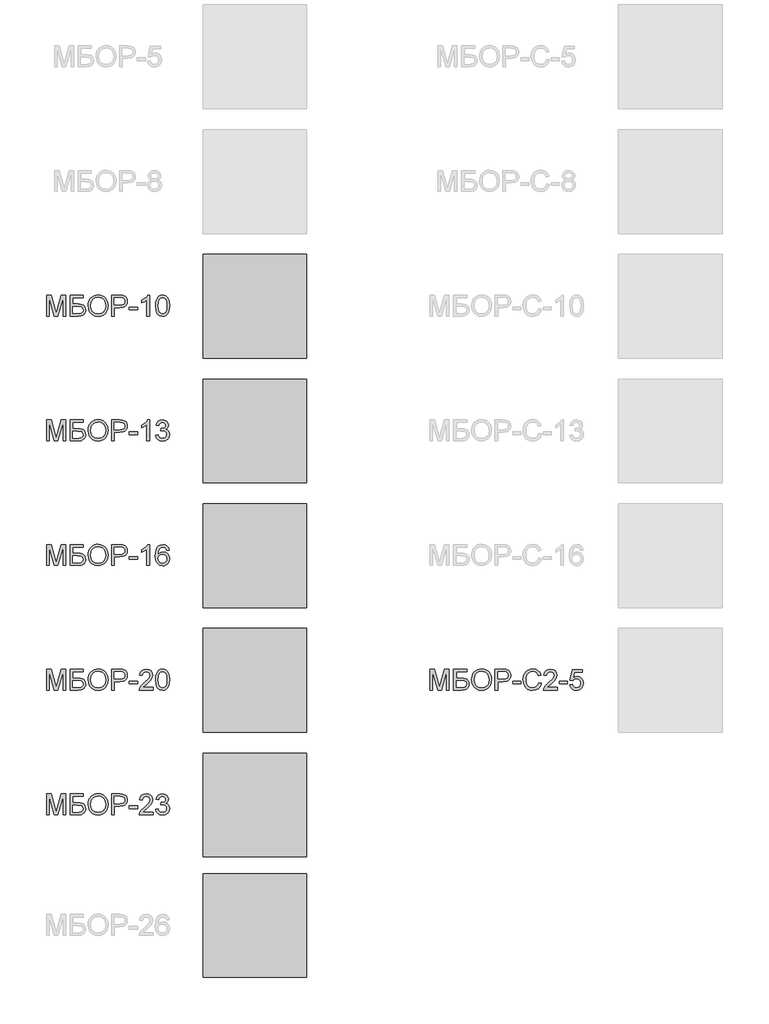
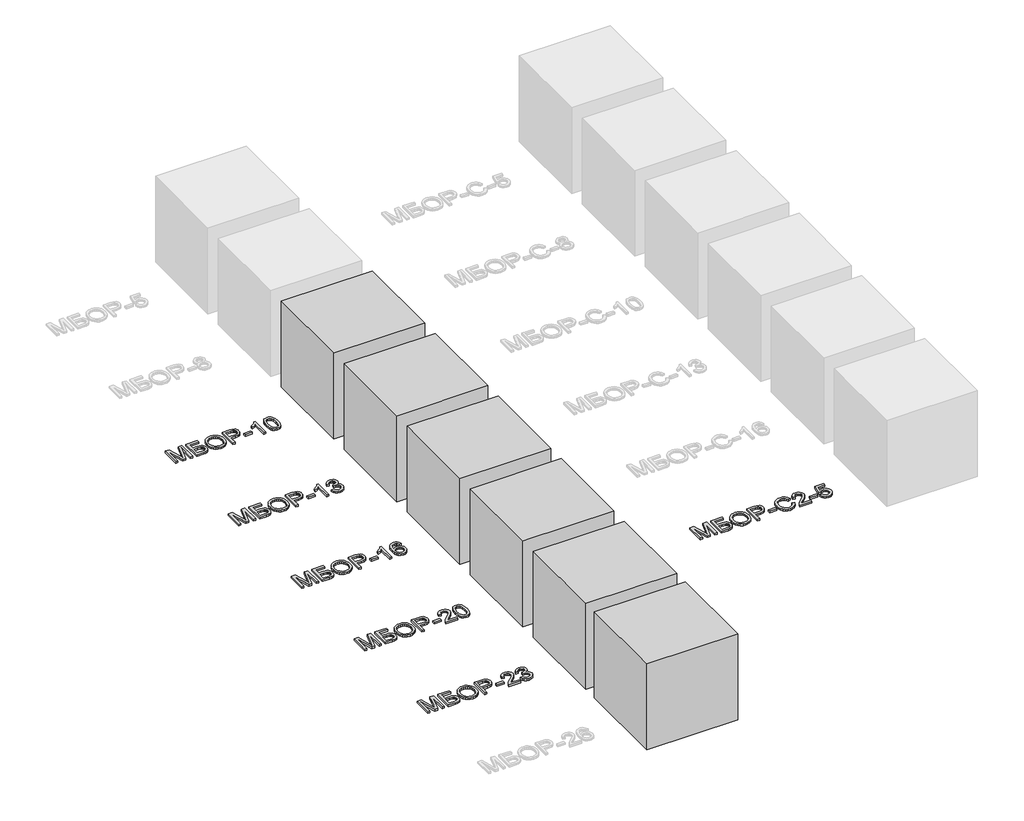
# One storey, part 22 of 35: 12 proxies.
"""IFC4 building model written with IfcOpenShell, lengths in millimetres."""

from ifc_helpers import new_model, si_unit, origin, origin_with_axes, place, context, project, spatial, polyline, outline, extrude, transform, mapped, element, save
from components import generic_models_0168a45e

model = new_model("IFC4")

# Units and contexts
model_context = context("Model", 3, world=origin())
ifc_project = project(units=[si_unit("LENGTHUNIT", "METRE", prefix="MILLI")], contexts=[model_context])

# Site, building, storey
site = spatial("IfcSite", under=ifc_project)
building = spatial("IfcBuilding", under=site)
storey = spatial("IfcBuildingStorey", under=building, Name="Этаж 01", Elevation=0.0)

# Proxies
placement = place(None, origin())
element("IfcBuildingElementProxy", 1, Name="400 мм Arial", ObjectType="400 мм Arial", at=placement, inside=storey, context=model_context, shape_type="SweptSolid", body=[
    extrude(outline(polyline([(8145.0571382, -24610.2364996), (8145.0571382, -24409.3238793), (8188.2710099, -24409.3238793), (8229.3756915, -24550.933922), (8237.6652992, -24580.5116344), (8246.6416198, -24548.4813754), (8287.0595884, -24409.3238793), (8330.2734601, -24409.3238793), (8330.2734601, -24610.2364996), (8305.1593825, -24610.2364996), (8305.1593825, -24434.4379569), (8254.6859728, -24610.2364996), (8220.6446255, -24610.2364996), (8170.1712158, -24434.4379569), (8170.1712158, -24610.2364996), (8145.0571382, -24610.2364996)])), origin_with_axes(), (0.0, 0.0, 1.0), 20.0),
    extrude(outline(polyline([(8374.2230958, -24409.3238793), (8499.7934835, -24409.3238793), (8499.7934835, -24434.4379569), (8399.3371733, -24434.4379569), (8399.3371733, -24494.083891), (8446.3770178, -24494.083891), (8469.7620499, -24495.3592153), (8487.8250559, -24499.185188), (8501.6942071, -24506.5550907), (8512.497675, -24518.4622046), (8519.4506447, -24533.790621), (8521.7683013, -24551.4244313), (8520.1189637, -24566.2316816), (8515.1709509, -24580.0456506), (8506.9487883, -24592.1428368), (8495.4770014, -24601.7997392), (8477.7818774, -24608.1273095), (8450.8897036, -24610.2364996), (8374.2230958, -24610.2364996), (8374.2230958, -24409.3238793)]), holes=[polyline([(8399.3371733, -24585.1224221), (8453.1460465, -24585.1224221), (8472.1655456, -24583.0500202), (8485.7649167, -24576.8328145), (8493.931897, -24566.4708049), (8496.6542238, -24551.9639916), (8495.0968567, -24541.1605237), (8490.4247553, -24532.2945676), (8482.9751449, -24525.7217426), (8473.0852506, -24521.797668), (8435.242456, -24519.1979686), (8399.3371733, -24519.1979686), (8399.3371733, -24585.1224221)])]), origin_with_axes(), (0.0, 0.0, 1.0), 20.0),
    extrude(outline(polyline([(8546.8823788, -24512.4289398), (8548.5562419, -24488.8630324), (8553.5778312, -24468.0010576), (8561.9471465, -24449.8430154), (8573.6641881, -24434.3889059), (8588.0269143, -24422.0495307), (8604.3332838, -24413.2356912), (8622.5832964, -24407.9473875), (8642.7769522, -24406.1846196), (8669.1295658, -24409.4955576), (8692.7598527, -24419.4283715), (8712.3802257, -24435.2840855), (8726.7030981, -24456.3637238), (8735.4586896, -24481.6494796), (8738.3772201, -24510.123546), (8735.3054054, -24538.9777572), (8726.0899614, -24564.6191322), (8711.2397915, -24585.7355588), (8691.2637992, -24601.0149243), (8667.8358475, -24610.2855506), (8642.6297994, -24613.3757593), (8615.8725157, -24609.9605881), (8592.1073388, -24599.7150746), (8572.5360166, -24583.565055), (8558.3602971, -24562.4363657), (8549.7518584, -24538.1254972), (8546.8823788, -24512.4289398)]), holes=[polyline([(8571.9964564, -24512.6741945), (8577.0180456, -24544.1035796), (8592.0828133, -24568.0526975), (8614.7259501, -24583.2094357), (8642.4826467, -24588.2616818), (8670.6440134, -24583.1603848), (8693.3239384, -24567.8564938), (8702.0473402, -24556.5839763), (8708.2783415, -24543.1716119), (8713.2631425, -24509.9273423), (8711.129427, -24487.695007), (8704.7282802, -24468.4793042), (8694.2252493, -24452.7646116), (8679.785881, -24441.0353073), (8662.3666685, -24433.7328497), (8642.924105, -24431.2986972), (8615.9093039, -24435.9891926), (8592.9412046, -24450.0606789), (8583.7778773, -24461.0097668), (8577.2326434, -24475.0950487), (8571.9964564, -24512.6741945)])]), origin_with_axes(), (0.0, 0.0, 1.0), 20.0),
    extrude(outline(polyline([(8772.9090767, -24610.2364996), (8772.9090767, -24409.3238793), (8847.3683925, -24409.3238793), (8877.3875633, -24411.2368657), (8901.7904023, -24420.6301193), (8910.6624898, -24428.9565151), (8917.6093281, -24440.0542887), (8922.0974885, -24453.1447563), (8923.5935419, -24467.4492346), (8919.5529713, -24491.1285723), (8907.4312596, -24510.85931), (8897.7237734, -24518.6277515), (8884.7635973, -24524.1766382), (8849.0851751, -24528.6157476), (8798.0231542, -24528.6157476), (8798.0231542, -24610.2364996), (8772.9090767, -24610.2364996)]), holes=[polyline([(8798.0231542, -24503.5016701), (8850.5567031, -24503.5016701), (8872.8258266, -24501.1962763), (8887.5411064, -24494.2800948), (8895.7448749, -24483.1823212), (8898.4794644, -24468.3321514), (8896.8669149, -24457.0504368), (8892.0292667, -24447.5345559), (8884.5673936, -24440.3731197), (8875.0821695, -24436.1547395), (8849.9680919, -24434.4379569), (8798.0231542, -24434.4379569), (8798.0231542, -24503.5016701)])]), origin_with_axes(), (0.0, 0.0, 1.0), 20.0),
    extrude(outline(polyline([(8942.4291001, -24550.5905655), (8942.4291001, -24525.4764879), (9020.9105924, -24525.4764879), (9020.9105924, -24550.5905655), (8942.4291001, -24550.5905655)])), origin_with_axes(), (0.0, 0.0, 1.0), 20.0),
    extrude(outline(polyline([(9137.063201, -24610.2364996), (9111.9491234, -24610.2364996), (9111.9491234, -24453.6659225), (9088.1594211, -24470.6130197), (9061.7209684, -24483.2926858), (9061.7209684, -24459.5520344), (9098.5336933, -24436.0566377), (9112.0043057, -24422.481792), (9120.8763932, -24409.3238793), (9137.063201, -24409.3238793), (9137.063201, -24610.2364996)])), origin_with_axes(), (0.0, 0.0, 1.0), 20.0),
    extrude(outline(polyline([(9196.7091351, -24511.3988703), (9198.5546765, -24479.2398525), (9204.0913005, -24453.5923461), (9213.2638249, -24434.0639435), (9226.0170674, -24420.2622373), (9242.4429985, -24412.0584688), (9262.6335887, -24409.3238793), (9278.1091579, -24410.9425601), (9291.9660464, -24415.7986025), (9303.5543293, -24423.701934), (9312.2240816, -24434.4624823), (9323.9963054, -24464.1873475), (9328.5580422, -24511.3988703), (9326.7308949, -24543.373947), (9321.2494532, -24568.9601398), (9312.1321111, -24588.5069365), (9299.3972627, -24602.3638249), (9282.9345434, -24610.6227757), (9262.6335887, -24613.3757593), (9236.5384925, -24608.5932934), (9216.7219157, -24594.2458956), (9207.9663242, -24579.1167485), (9201.7123303, -24560.265862), (9196.7091351, -24511.3988703)]), holes=[polyline([(9221.8232127, -24511.3498193), (9224.7662686, -24550.8542142), (9233.5954365, -24573.7180802), (9246.7410865, -24584.6257814), (9262.6335887, -24588.2616818), (9278.5260908, -24584.6135187), (9291.6717408, -24573.6690293), (9300.5009087, -24550.7929006), (9303.4439647, -24511.3498193), (9300.5990106, -24472.7344726), (9292.0641483, -24449.6927969), (9278.9430238, -24438.2516669), (9262.3392831, -24434.4379569), (9246.6184591, -24437.7979458), (9233.987844, -24447.8779124), (9224.8643705, -24472.3543278), (9221.8232127, -24511.3498193)])]), origin_with_axes(), (0.0, 0.0, 1.0), 20.0),
])
element("IfcBuildingElementProxy", 2, Name="400 мм Arial", ObjectType="400 мм Arial", at=placement, inside=storey, context=model_context, shape_type="SweptSolid", body=[
    extrude(outline(polyline([(8145.0571382, -25810.2364996), (8145.0571382, -25609.3238793), (8188.2710099, -25609.3238793), (8229.3756915, -25750.933922), (8237.6652992, -25780.5116344), (8246.6416198, -25748.4813754), (8287.0595884, -25609.3238793), (8330.2734601, -25609.3238793), (8330.2734601, -25810.2364996), (8305.1593825, -25810.2364996), (8305.1593825, -25634.4379569), (8254.6859728, -25810.2364996), (8220.6446255, -25810.2364996), (8170.1712158, -25634.4379569), (8170.1712158, -25810.2364996), (8145.0571382, -25810.2364996)])), origin_with_axes(), (0.0, 0.0, 1.0), 20.0),
    extrude(outline(polyline([(8374.2230958, -25609.3238793), (8499.7934835, -25609.3238793), (8499.7934835, -25634.4379569), (8399.3371733, -25634.4379569), (8399.3371733, -25694.083891), (8446.3770178, -25694.083891), (8469.7620499, -25695.3592153), (8487.8250559, -25699.185188), (8501.6942071, -25706.5550907), (8512.497675, -25718.4622046), (8519.4506447, -25733.790621), (8521.7683013, -25751.4244313), (8520.1189637, -25766.2316816), (8515.1709509, -25780.0456506), (8506.9487883, -25792.1428368), (8495.4770014, -25801.7997392), (8477.7818774, -25808.1273095), (8450.8897036, -25810.2364996), (8374.2230958, -25810.2364996), (8374.2230958, -25609.3238793)]), holes=[polyline([(8399.3371733, -25785.1224221), (8453.1460465, -25785.1224221), (8472.1655456, -25783.0500202), (8485.7649167, -25776.8328145), (8493.931897, -25766.4708049), (8496.6542238, -25751.9639916), (8495.0968567, -25741.1605237), (8490.4247553, -25732.2945676), (8482.9751449, -25725.7217426), (8473.0852506, -25721.797668), (8435.242456, -25719.1979686), (8399.3371733, -25719.1979686), (8399.3371733, -25785.1224221)])]), origin_with_axes(), (0.0, 0.0, 1.0), 20.0),
    extrude(outline(polyline([(8546.8823788, -25712.4289398), (8548.5562419, -25688.8630324), (8553.5778312, -25668.0010576), (8561.9471465, -25649.8430154), (8573.6641881, -25634.3889059), (8588.0269143, -25622.0495307), (8604.3332838, -25613.2356912), (8622.5832964, -25607.9473875), (8642.7769522, -25606.1846196), (8669.1295658, -25609.4955576), (8692.7598527, -25619.4283715), (8712.3802257, -25635.2840855), (8726.7030981, -25656.3637238), (8735.4586896, -25681.6494796), (8738.3772201, -25710.123546), (8735.3054054, -25738.9777572), (8726.0899614, -25764.6191322), (8711.2397915, -25785.7355588), (8691.2637992, -25801.0149243), (8667.8358475, -25810.2855506), (8642.6297994, -25813.3757593), (8615.8725157, -25809.9605881), (8592.1073388, -25799.7150746), (8572.5360166, -25783.565055), (8558.3602971, -25762.4363657), (8549.7518584, -25738.1254972), (8546.8823788, -25712.4289398)]), holes=[polyline([(8571.9964564, -25712.6741945), (8577.0180456, -25744.1035796), (8592.0828133, -25768.0526975), (8614.7259501, -25783.2094357), (8642.4826467, -25788.2616818), (8670.6440134, -25783.1603848), (8693.3239384, -25767.8564938), (8702.0473402, -25756.5839763), (8708.2783415, -25743.1716119), (8713.2631425, -25709.9273423), (8711.129427, -25687.695007), (8704.7282802, -25668.4793042), (8694.2252493, -25652.7646116), (8679.785881, -25641.0353073), (8662.3666685, -25633.7328497), (8642.924105, -25631.2986972), (8615.9093039, -25635.9891926), (8592.9412046, -25650.0606789), (8583.7778773, -25661.0097668), (8577.2326434, -25675.0950487), (8571.9964564, -25712.6741945)])]), origin_with_axes(), (0.0, 0.0, 1.0), 20.0),
    extrude(outline(polyline([(8772.9090767, -25810.2364996), (8772.9090767, -25609.3238793), (8847.3683925, -25609.3238793), (8877.3875633, -25611.2368657), (8901.7904023, -25620.6301193), (8910.6624898, -25628.9565151), (8917.6093281, -25640.0542887), (8922.0974885, -25653.1447563), (8923.5935419, -25667.4492346), (8919.5529713, -25691.1285723), (8907.4312596, -25710.85931), (8897.7237734, -25718.6277515), (8884.7635973, -25724.1766382), (8849.0851751, -25728.6157476), (8798.0231542, -25728.6157476), (8798.0231542, -25810.2364996), (8772.9090767, -25810.2364996)]), holes=[polyline([(8798.0231542, -25703.5016701), (8850.5567031, -25703.5016701), (8872.8258266, -25701.1962763), (8887.5411064, -25694.2800948), (8895.7448749, -25683.1823212), (8898.4794644, -25668.3321514), (8896.8669149, -25657.0504368), (8892.0292667, -25647.5345559), (8884.5673936, -25640.3731197), (8875.0821695, -25636.1547395), (8849.9680919, -25634.4379569), (8798.0231542, -25634.4379569), (8798.0231542, -25703.5016701)])]), origin_with_axes(), (0.0, 0.0, 1.0), 20.0),
    extrude(outline(polyline([(8942.4291001, -25750.5905655), (8942.4291001, -25725.4764879), (9020.9105924, -25725.4764879), (9020.9105924, -25750.5905655), (8942.4291001, -25750.5905655)])), origin_with_axes(), (0.0, 0.0, 1.0), 20.0),
    extrude(outline(polyline([(9137.063201, -25810.2364996), (9111.9491234, -25810.2364996), (9111.9491234, -25653.6659225), (9088.1594211, -25670.6130197), (9061.7209684, -25683.2926858), (9061.7209684, -25659.5520344), (9098.5336933, -25636.0566377), (9112.0043057, -25622.481792), (9120.8763932, -25609.3238793), (9137.063201, -25609.3238793), (9137.063201, -25810.2364996)])), origin_with_axes(), (0.0, 0.0, 1.0), 20.0),
    extrude(outline(polyline([(9196.7091351, -25756.8690849), (9221.8232127, -25753.7298252), (9227.4456758, -25769.5119628), (9235.6801011, -25780.1682779), (9246.9311588, -25786.2383308), (9261.6035191, -25788.2616818), (9278.8203964, -25785.4780414), (9292.1131992, -25777.1271201), (9300.6112733, -25764.6681832), (9303.4439647, -25749.5604959), (9300.6357988, -25735.2192295), (9292.2113011, -25723.588027), (9279.4580586, -25715.8808992), (9263.6636582, -25713.3118566), (9246.0543734, -25716.0587089), (9248.8502766, -25690.9446313), (9252.872453, -25691.2389369), (9267.9188267, -25689.4363152), (9281.3710449, -25684.0284498), (9290.8624004, -25674.8804509), (9294.0261856, -25661.8574282), (9291.7330545, -25651.0110408), (9284.8536612, -25642.2125297), (9274.3567616, -25636.3816001), (9261.2111116, -25634.4379569), (9248.0409362, -25636.3999942), (9237.2742565, -25642.2861061), (9229.4138445, -25652.0962926), (9224.9624723, -25665.8305538), (9199.8483948, -25662.6912941), (9207.2428229, -25640.1401278), (9220.4007356, -25623.3033952), (9238.4024279, -25612.8187583), (9260.3281948, -25609.3238793), (9276.1164638, -25611.0467933), (9290.6171458, -25616.2155354), (9302.8430907, -25624.3702529), (9311.8071487, -25635.0510935), (9317.3069845, -25647.3567463), (9319.1402631, -25660.3859003), (9317.398955, -25672.5260061), (9312.1750307, -25683.5379405), (9303.5420665, -25692.9189314), (9291.5736389, -25700.1662067), (9307.2944629, -25706.5183025), (9318.9440594, -25717.3340331), (9326.1545465, -25732.0247875), (9328.5580422, -25750.0019543), (9323.7510508, -25774.4783697), (9309.3300766, -25794.9326086), (9287.5637252, -25808.7649717), (9260.7206023, -25813.3757593), (9236.4403906, -25809.439422), (9216.6728647, -25797.6304099), (9202.9263408, -25779.567404), (9196.7091351, -25756.8690849)])), origin_with_axes(), (0.0, 0.0, 1.0), 20.0),
])
element("IfcBuildingElementProxy", 3, Name="400 мм Arial", ObjectType="400 мм Arial", at=placement, inside=storey, context=model_context, shape_type="SweptSolid", body=[
    extrude(outline(polyline([(8145.0571382, -27010.2364996), (8145.0571382, -26809.3238793), (8188.2710099, -26809.3238793), (8229.3756915, -26950.933922), (8237.6652992, -26980.5116344), (8246.6416198, -26948.4813754), (8287.0595884, -26809.3238793), (8330.2734601, -26809.3238793), (8330.2734601, -27010.2364996), (8305.1593825, -27010.2364996), (8305.1593825, -26834.4379569), (8254.6859728, -27010.2364996), (8220.6446255, -27010.2364996), (8170.1712158, -26834.4379569), (8170.1712158, -27010.2364996), (8145.0571382, -27010.2364996)])), origin_with_axes(), (0.0, 0.0, 1.0), 20.0),
    extrude(outline(polyline([(8374.2230958, -26809.3238793), (8499.7934835, -26809.3238793), (8499.7934835, -26834.4379569), (8399.3371733, -26834.4379569), (8399.3371733, -26894.083891), (8446.3770178, -26894.083891), (8469.7620499, -26895.3592153), (8487.8250559, -26899.185188), (8501.6942071, -26906.5550907), (8512.497675, -26918.4622046), (8519.4506447, -26933.790621), (8521.7683013, -26951.4244313), (8520.1189637, -26966.2316816), (8515.1709509, -26980.0456506), (8506.9487883, -26992.1428368), (8495.4770014, -27001.7997392), (8477.7818774, -27008.1273095), (8450.8897036, -27010.2364996), (8374.2230958, -27010.2364996), (8374.2230958, -26809.3238793)]), holes=[polyline([(8399.3371733, -26985.1224221), (8453.1460465, -26985.1224221), (8472.1655456, -26983.0500202), (8485.7649167, -26976.8328145), (8493.931897, -26966.4708049), (8496.6542238, -26951.9639916), (8495.0968567, -26941.1605237), (8490.4247553, -26932.2945676), (8482.9751449, -26925.7217426), (8473.0852506, -26921.797668), (8435.242456, -26919.1979686), (8399.3371733, -26919.1979686), (8399.3371733, -26985.1224221)])]), origin_with_axes(), (0.0, 0.0, 1.0), 20.0),
    extrude(outline(polyline([(8546.8823788, -26912.4289398), (8548.5562419, -26888.8630324), (8553.5778312, -26868.0010576), (8561.9471465, -26849.8430154), (8573.6641881, -26834.3889059), (8588.0269143, -26822.0495307), (8604.3332838, -26813.2356912), (8622.5832964, -26807.9473875), (8642.7769522, -26806.1846196), (8669.1295658, -26809.4955576), (8692.7598527, -26819.4283715), (8712.3802257, -26835.2840855), (8726.7030981, -26856.3637238), (8735.4586896, -26881.6494796), (8738.3772201, -26910.123546), (8735.3054054, -26938.9777572), (8726.0899614, -26964.6191322), (8711.2397915, -26985.7355588), (8691.2637992, -27001.0149243), (8667.8358475, -27010.2855506), (8642.6297994, -27013.3757593), (8615.8725157, -27009.9605881), (8592.1073388, -26999.7150746), (8572.5360166, -26983.565055), (8558.3602971, -26962.4363657), (8549.7518584, -26938.1254972), (8546.8823788, -26912.4289398)]), holes=[polyline([(8571.9964564, -26912.6741945), (8577.0180456, -26944.1035796), (8592.0828133, -26968.0526975), (8614.7259501, -26983.2094357), (8642.4826467, -26988.2616818), (8670.6440134, -26983.1603848), (8693.3239384, -26967.8564938), (8702.0473402, -26956.5839763), (8708.2783415, -26943.1716119), (8713.2631425, -26909.9273423), (8711.129427, -26887.695007), (8704.7282802, -26868.4793042), (8694.2252493, -26852.7646116), (8679.785881, -26841.0353073), (8662.3666685, -26833.7328497), (8642.924105, -26831.2986972), (8615.9093039, -26835.9891926), (8592.9412046, -26850.0606789), (8583.7778773, -26861.0097668), (8577.2326434, -26875.0950487), (8571.9964564, -26912.6741945)])]), origin_with_axes(), (0.0, 0.0, 1.0), 20.0),
    extrude(outline(polyline([(8772.9090767, -27010.2364996), (8772.9090767, -26809.3238793), (8847.3683925, -26809.3238793), (8877.3875633, -26811.2368657), (8901.7904023, -26820.6301193), (8910.6624898, -26828.9565151), (8917.6093281, -26840.0542887), (8922.0974885, -26853.1447563), (8923.5935419, -26867.4492346), (8919.5529713, -26891.1285723), (8907.4312596, -26910.85931), (8897.7237734, -26918.6277515), (8884.7635973, -26924.1766382), (8849.0851751, -26928.6157476), (8798.0231542, -26928.6157476), (8798.0231542, -27010.2364996), (8772.9090767, -27010.2364996)]), holes=[polyline([(8798.0231542, -26903.5016701), (8850.5567031, -26903.5016701), (8872.8258266, -26901.1962763), (8887.5411064, -26894.2800948), (8895.7448749, -26883.1823212), (8898.4794644, -26868.3321514), (8896.8669149, -26857.0504368), (8892.0292667, -26847.5345559), (8884.5673936, -26840.3731197), (8875.0821695, -26836.1547395), (8849.9680919, -26834.4379569), (8798.0231542, -26834.4379569), (8798.0231542, -26903.5016701)])]), origin_with_axes(), (0.0, 0.0, 1.0), 20.0),
    extrude(outline(polyline([(8942.4291001, -26950.5905655), (8942.4291001, -26925.4764879), (9020.9105924, -26925.4764879), (9020.9105924, -26950.5905655), (8942.4291001, -26950.5905655)])), origin_with_axes(), (0.0, 0.0, 1.0), 20.0),
    extrude(outline(polyline([(9137.063201, -27010.2364996), (9111.9491234, -27010.2364996), (9111.9491234, -26853.6659225), (9088.1594211, -26870.6130197), (9061.7209684, -26883.2926858), (9061.7209684, -26859.5520344), (9098.5336933, -26836.0566377), (9112.0043057, -26822.481792), (9120.8763932, -26809.3238793), (9137.063201, -26809.3238793), (9137.063201, -27010.2364996)])), origin_with_axes(), (0.0, 0.0, 1.0), 20.0),
    extrude(outline(polyline([(9325.4187825, -26862.6912941), (9300.304705, -26865.8305538), (9290.788824, -26844.8858055), (9279.3967449, -26837.049919), (9265.6256955, -26834.4379569), (9242.9641646, -26840.5202725), (9233.5279915, -26850.128124), (9225.8208637, -26863.3534817), (9220.6153334, -26882.0602811), (9218.683953, -26908.1124578), (9228.7577883, -26896.358628), (9240.8304491, -26888.0751518), (9254.2274851, -26883.1639271), (9268.2744459, -26881.5268523), (9291.4755371, -26886.0027499), (9310.9487574, -26899.4304427), (9324.155721, -26919.9459953), (9328.5580422, -26945.6854722), (9326.4856403, -26963.6687704), (9320.2684346, -26980.3399562), (9310.4214598, -26994.4788875), (9297.4597509, -27004.8654225), (9281.9719189, -27011.2481751), (9264.546575, -27013.3757593), (9236.0541145, -27007.7349021), (9213.3619268, -26990.8123303), (9204.7029043, -26977.7034685), (9198.5178883, -26960.9403123), (9193.5698754, -26916.4511163), (9199.0635799, -26866.4314277), (9205.9307105, -26847.3536806), (9215.5446933, -26832.2306649), (9225.9649508, -26822.2089462), (9238.0468086, -26815.0505757), (9267.1953254, -26809.3238793), (9289.2314569, -26812.8678092), (9306.8775299, -26823.4995989), (9319.238365, -26840.3853825), (9325.4187825, -26862.6912941)]), holes=[polyline([(9218.683953, -26945.2930648), (9224.4964885, -26967.0471534), (9239.9475323, -26982.8415537), (9262.5845377, -26988.2616818), (9279.1576216, -26985.4535159), (9292.1867756, -26977.0290182), (9300.6296674, -26963.7852664), (9303.4439647, -26946.5193381), (9300.6664556, -26929.9462542), (9292.3339284, -26917.3095077), (9279.0840452, -26909.3080743), (9261.5544681, -26906.6409298), (9245.0059097, -26909.3080743), (9231.1674153, -26917.3095077), (9221.8048186, -26929.6396859), (9218.683953, -26945.2930648)])]), origin_with_axes(), (0.0, 0.0, 1.0), 20.0),
])
element("IfcBuildingElementProxy", 4, Name="400 мм Arial", ObjectType="400 мм Arial", at=placement, inside=storey, context=model_context, shape_type="SweptSolid", body=[
    extrude(outline(polyline([(8145.0571382, -28210.2364996), (8145.0571382, -28009.3238793), (8188.2710099, -28009.3238793), (8229.3756915, -28150.933922), (8237.6652992, -28180.5116344), (8246.6416198, -28148.4813754), (8287.0595884, -28009.3238793), (8330.2734601, -28009.3238793), (8330.2734601, -28210.2364996), (8305.1593825, -28210.2364996), (8305.1593825, -28034.4379569), (8254.6859728, -28210.2364996), (8220.6446255, -28210.2364996), (8170.1712158, -28034.4379569), (8170.1712158, -28210.2364996), (8145.0571382, -28210.2364996)])), origin_with_axes(), (0.0, 0.0, 1.0), 20.0),
    extrude(outline(polyline([(8374.2230958, -28009.3238793), (8499.7934835, -28009.3238793), (8499.7934835, -28034.4379569), (8399.3371733, -28034.4379569), (8399.3371733, -28094.083891), (8446.3770178, -28094.083891), (8469.7620499, -28095.3592153), (8487.8250559, -28099.185188), (8501.6942071, -28106.5550907), (8512.497675, -28118.4622046), (8519.4506447, -28133.790621), (8521.7683013, -28151.4244313), (8520.1189637, -28166.2316816), (8515.1709509, -28180.0456506), (8506.9487883, -28192.1428368), (8495.4770014, -28201.7997392), (8477.7818774, -28208.1273095), (8450.8897036, -28210.2364996), (8374.2230958, -28210.2364996), (8374.2230958, -28009.3238793)]), holes=[polyline([(8399.3371733, -28185.1224221), (8453.1460465, -28185.1224221), (8472.1655456, -28183.0500202), (8485.7649167, -28176.8328145), (8493.931897, -28166.4708049), (8496.6542238, -28151.9639916), (8495.0968567, -28141.1605237), (8490.4247553, -28132.2945676), (8482.9751449, -28125.7217426), (8473.0852506, -28121.797668), (8435.242456, -28119.1979686), (8399.3371733, -28119.1979686), (8399.3371733, -28185.1224221)])]), origin_with_axes(), (0.0, 0.0, 1.0), 20.0),
    extrude(outline(polyline([(8546.8823788, -28112.4289398), (8548.5562419, -28088.8630324), (8553.5778312, -28068.0010576), (8561.9471465, -28049.8430154), (8573.6641881, -28034.3889059), (8588.0269143, -28022.0495307), (8604.3332838, -28013.2356912), (8622.5832964, -28007.9473875), (8642.7769522, -28006.1846196), (8669.1295658, -28009.4955576), (8692.7598527, -28019.4283715), (8712.3802257, -28035.2840855), (8726.7030981, -28056.3637238), (8735.4586896, -28081.6494796), (8738.3772201, -28110.123546), (8735.3054054, -28138.9777572), (8726.0899614, -28164.6191322), (8711.2397915, -28185.7355588), (8691.2637992, -28201.0149243), (8667.8358475, -28210.2855506), (8642.6297994, -28213.3757593), (8615.8725157, -28209.9605881), (8592.1073388, -28199.7150746), (8572.5360166, -28183.565055), (8558.3602971, -28162.4363657), (8549.7518584, -28138.1254972), (8546.8823788, -28112.4289398)]), holes=[polyline([(8571.9964564, -28112.6741945), (8577.0180456, -28144.1035796), (8592.0828133, -28168.0526975), (8614.7259501, -28183.2094357), (8642.4826467, -28188.2616818), (8670.6440134, -28183.1603848), (8693.3239384, -28167.8564938), (8702.0473402, -28156.5839763), (8708.2783415, -28143.1716119), (8713.2631425, -28109.9273423), (8711.129427, -28087.695007), (8704.7282802, -28068.4793042), (8694.2252493, -28052.7646116), (8679.785881, -28041.0353073), (8662.3666685, -28033.7328497), (8642.924105, -28031.2986972), (8615.9093039, -28035.9891926), (8592.9412046, -28050.0606789), (8583.7778773, -28061.0097668), (8577.2326434, -28075.0950487), (8571.9964564, -28112.6741945)])]), origin_with_axes(), (0.0, 0.0, 1.0), 20.0),
    extrude(outline(polyline([(8772.9090767, -28210.2364996), (8772.9090767, -28009.3238793), (8847.3683925, -28009.3238793), (8877.3875633, -28011.2368657), (8901.7904023, -28020.6301193), (8910.6624898, -28028.9565151), (8917.6093281, -28040.0542887), (8922.0974885, -28053.1447563), (8923.5935419, -28067.4492346), (8919.5529713, -28091.1285723), (8907.4312596, -28110.85931), (8897.7237734, -28118.6277515), (8884.7635973, -28124.1766382), (8849.0851751, -28128.6157476), (8798.0231542, -28128.6157476), (8798.0231542, -28210.2364996), (8772.9090767, -28210.2364996)]), holes=[polyline([(8798.0231542, -28103.5016701), (8850.5567031, -28103.5016701), (8872.8258266, -28101.1962763), (8887.5411064, -28094.2800948), (8895.7448749, -28083.1823212), (8898.4794644, -28068.3321514), (8896.8669149, -28057.0504368), (8892.0292667, -28047.5345559), (8884.5673936, -28040.3731197), (8875.0821695, -28036.1547395), (8849.9680919, -28034.4379569), (8798.0231542, -28034.4379569), (8798.0231542, -28103.5016701)])]), origin_with_axes(), (0.0, 0.0, 1.0), 20.0),
    extrude(outline(polyline([(8942.4291001, -28150.5905655), (8942.4291001, -28125.4764879), (9020.9105924, -28125.4764879), (9020.9105924, -28150.5905655), (8942.4291001, -28150.5905655)])), origin_with_axes(), (0.0, 0.0, 1.0), 20.0),
    extrude(outline(polyline([(9171.5950576, -28185.1224221), (9171.5950576, -28210.2364996), (9039.7461505, -28210.2364996), (9042.4439518, -28192.9215204), (9057.6987919, -28166.2623385), (9089.1404397, -28137.1506099), (9132.5014642, -28095.3101643), (9140.6316563, -28080.8891901), (9143.3417204, -28066.8606234), (9140.7849405, -28054.2851905), (9133.1146009, -28043.8312105), (9121.3239829, -28036.7862703), (9106.406368, -28034.4379569), (9090.7407264, -28036.731088), (9078.5699637, -28043.6104813), (9070.7156831, -28054.5365765), (9067.9994877, -28068.9698135), (9042.8854102, -28065.8305538), (9048.9738572, -28041.5380794), (9062.1379013, -28023.7939045), (9081.6908293, -28012.9413856), (9106.9459283, -28009.3238793), (9132.3849683, -28013.3460558), (9151.9011081, -28025.4125853), (9164.3171254, -28043.438803), (9168.4557979, -28065.3400445), (9163.992163, -28089.1542723), (9149.1542559, -28113.7778405), (9113.1753967, -28148.1870698), (9084.2843974, -28172.3446541), (9072.9536319, -28185.1224221), (9171.5950576, -28185.1224221)])), origin_with_axes(), (0.0, 0.0, 1.0), 20.0),
    extrude(outline(polyline([(9196.7091351, -28111.3988703), (9198.5546765, -28079.2398525), (9204.0913005, -28053.5923461), (9213.2638249, -28034.0639435), (9226.0170674, -28020.2622373), (9242.4429985, -28012.0584688), (9262.6335887, -28009.3238793), (9278.1091579, -28010.9425601), (9291.9660464, -28015.7986025), (9303.5543293, -28023.701934), (9312.2240816, -28034.4624823), (9323.9963054, -28064.1873475), (9328.5580422, -28111.3988703), (9326.7308949, -28143.373947), (9321.2494532, -28168.9601398), (9312.1321111, -28188.5069365), (9299.3972627, -28202.3638249), (9282.9345434, -28210.6227757), (9262.6335887, -28213.3757593), (9236.5384925, -28208.5932934), (9216.7219157, -28194.2458956), (9207.9663242, -28179.1167485), (9201.7123303, -28160.265862), (9196.7091351, -28111.3988703)]), holes=[polyline([(9221.8232127, -28111.3498193), (9224.7662686, -28150.8542142), (9233.5954365, -28173.7180802), (9246.7410865, -28184.6257814), (9262.6335887, -28188.2616818), (9278.5260908, -28184.6135187), (9291.6717408, -28173.6690293), (9300.5009087, -28150.7929006), (9303.4439647, -28111.3498193), (9300.5990106, -28072.7344726), (9292.0641483, -28049.6927969), (9278.9430238, -28038.2516669), (9262.3392831, -28034.4379569), (9246.6184591, -28037.7979458), (9233.987844, -28047.8779124), (9224.8643705, -28072.3543278), (9221.8232127, -28111.3498193)])]), origin_with_axes(), (0.0, 0.0, 1.0), 20.0),
])
element("IfcBuildingElementProxy", 5, Name="400 мм Arial", ObjectType="400 мм Arial", at=placement, inside=storey, context=model_context, shape_type="SweptSolid", body=[
    extrude(outline(polyline([(8145.0571382, -29410.2364996), (8145.0571382, -29209.3238793), (8188.2710099, -29209.3238793), (8229.3756915, -29350.933922), (8237.6652992, -29380.5116344), (8246.6416198, -29348.4813754), (8287.0595884, -29209.3238793), (8330.2734601, -29209.3238793), (8330.2734601, -29410.2364996), (8305.1593825, -29410.2364996), (8305.1593825, -29234.4379569), (8254.6859728, -29410.2364996), (8220.6446255, -29410.2364996), (8170.1712158, -29234.4379569), (8170.1712158, -29410.2364996), (8145.0571382, -29410.2364996)])), origin_with_axes(), (0.0, 0.0, 1.0), 20.0),
    extrude(outline(polyline([(8374.2230958, -29209.3238793), (8499.7934835, -29209.3238793), (8499.7934835, -29234.4379569), (8399.3371733, -29234.4379569), (8399.3371733, -29294.083891), (8446.3770178, -29294.083891), (8469.7620499, -29295.3592153), (8487.8250559, -29299.185188), (8501.6942071, -29306.5550907), (8512.497675, -29318.4622046), (8519.4506447, -29333.790621), (8521.7683013, -29351.4244313), (8520.1189637, -29366.2316816), (8515.1709509, -29380.0456506), (8506.9487883, -29392.1428368), (8495.4770014, -29401.7997392), (8477.7818774, -29408.1273095), (8450.8897036, -29410.2364996), (8374.2230958, -29410.2364996), (8374.2230958, -29209.3238793)]), holes=[polyline([(8399.3371733, -29385.1224221), (8453.1460465, -29385.1224221), (8472.1655456, -29383.0500202), (8485.7649167, -29376.8328145), (8493.931897, -29366.4708049), (8496.6542238, -29351.9639916), (8495.0968567, -29341.1605237), (8490.4247553, -29332.2945676), (8482.9751449, -29325.7217426), (8473.0852506, -29321.797668), (8435.242456, -29319.1979686), (8399.3371733, -29319.1979686), (8399.3371733, -29385.1224221)])]), origin_with_axes(), (0.0, 0.0, 1.0), 20.0),
    extrude(outline(polyline([(8546.8823788, -29312.4289398), (8548.5562419, -29288.8630324), (8553.5778312, -29268.0010576), (8561.9471465, -29249.8430154), (8573.6641881, -29234.3889059), (8588.0269143, -29222.0495307), (8604.3332838, -29213.2356912), (8622.5832964, -29207.9473875), (8642.7769522, -29206.1846196), (8669.1295658, -29209.4955576), (8692.7598527, -29219.4283715), (8712.3802257, -29235.2840855), (8726.7030981, -29256.3637238), (8735.4586896, -29281.6494796), (8738.3772201, -29310.123546), (8735.3054054, -29338.9777572), (8726.0899614, -29364.6191322), (8711.2397915, -29385.7355588), (8691.2637992, -29401.0149243), (8667.8358475, -29410.2855506), (8642.6297994, -29413.3757593), (8615.8725157, -29409.9605881), (8592.1073388, -29399.7150746), (8572.5360166, -29383.565055), (8558.3602971, -29362.4363657), (8549.7518584, -29338.1254972), (8546.8823788, -29312.4289398)]), holes=[polyline([(8571.9964564, -29312.6741945), (8577.0180456, -29344.1035796), (8592.0828133, -29368.0526975), (8614.7259501, -29383.2094357), (8642.4826467, -29388.2616818), (8670.6440134, -29383.1603848), (8693.3239384, -29367.8564938), (8702.0473402, -29356.5839763), (8708.2783415, -29343.1716119), (8713.2631425, -29309.9273423), (8711.129427, -29287.695007), (8704.7282802, -29268.4793042), (8694.2252493, -29252.7646116), (8679.785881, -29241.0353073), (8662.3666685, -29233.7328497), (8642.924105, -29231.2986972), (8615.9093039, -29235.9891926), (8592.9412046, -29250.0606789), (8583.7778773, -29261.0097668), (8577.2326434, -29275.0950487), (8571.9964564, -29312.6741945)])]), origin_with_axes(), (0.0, 0.0, 1.0), 20.0),
    extrude(outline(polyline([(8772.9090767, -29410.2364996), (8772.9090767, -29209.3238793), (8847.3683925, -29209.3238793), (8877.3875633, -29211.2368657), (8901.7904023, -29220.6301193), (8910.6624898, -29228.9565151), (8917.6093281, -29240.0542887), (8922.0974885, -29253.1447563), (8923.5935419, -29267.4492346), (8919.5529713, -29291.1285723), (8907.4312596, -29310.85931), (8897.7237734, -29318.6277515), (8884.7635973, -29324.1766382), (8849.0851751, -29328.6157476), (8798.0231542, -29328.6157476), (8798.0231542, -29410.2364996), (8772.9090767, -29410.2364996)]), holes=[polyline([(8798.0231542, -29303.5016701), (8850.5567031, -29303.5016701), (8872.8258266, -29301.1962763), (8887.5411064, -29294.2800948), (8895.7448749, -29283.1823212), (8898.4794644, -29268.3321514), (8896.8669149, -29257.0504368), (8892.0292667, -29247.5345559), (8884.5673936, -29240.3731197), (8875.0821695, -29236.1547395), (8849.9680919, -29234.4379569), (8798.0231542, -29234.4379569), (8798.0231542, -29303.5016701)])]), origin_with_axes(), (0.0, 0.0, 1.0), 20.0),
    extrude(outline(polyline([(8942.4291001, -29350.5905655), (8942.4291001, -29325.4764879), (9020.9105924, -29325.4764879), (9020.9105924, -29350.5905655), (8942.4291001, -29350.5905655)])), origin_with_axes(), (0.0, 0.0, 1.0), 20.0),
    extrude(outline(polyline([(9171.5950576, -29385.1224221), (9171.5950576, -29410.2364996), (9039.7461505, -29410.2364996), (9042.4439518, -29392.9215204), (9057.6987919, -29366.2623385), (9089.1404397, -29337.1506099), (9132.5014642, -29295.3101643), (9140.6316563, -29280.8891901), (9143.3417204, -29266.8606234), (9140.7849405, -29254.2851905), (9133.1146009, -29243.8312105), (9121.3239829, -29236.7862703), (9106.406368, -29234.4379569), (9090.7407264, -29236.731088), (9078.5699637, -29243.6104813), (9070.7156831, -29254.5365765), (9067.9994877, -29268.9698135), (9042.8854102, -29265.8305538), (9048.9738572, -29241.5380794), (9062.1379013, -29223.7939045), (9081.6908293, -29212.9413856), (9106.9459283, -29209.3238793), (9132.3849683, -29213.3460558), (9151.9011081, -29225.4125853), (9164.3171254, -29243.438803), (9168.4557979, -29265.3400445), (9163.992163, -29289.1542723), (9149.1542559, -29313.7778405), (9113.1753967, -29348.1870698), (9084.2843974, -29372.3446541), (9072.9536319, -29385.1224221), (9171.5950576, -29385.1224221)])), origin_with_axes(), (0.0, 0.0, 1.0), 20.0),
    extrude(outline(polyline([(9196.7091351, -29356.8690849), (9221.8232127, -29353.7298252), (9227.4456758, -29369.5119628), (9235.6801011, -29380.1682779), (9246.9311588, -29386.2383308), (9261.6035191, -29388.2616818), (9278.8203964, -29385.4780414), (9292.1131992, -29377.1271201), (9300.6112733, -29364.6681832), (9303.4439647, -29349.5604959), (9300.6357988, -29335.2192295), (9292.2113011, -29323.588027), (9279.4580586, -29315.8808992), (9263.6636582, -29313.3118566), (9246.0543734, -29316.0587089), (9248.8502766, -29290.9446313), (9252.872453, -29291.2389369), (9267.9188267, -29289.4363152), (9281.3710449, -29284.0284498), (9290.8624004, -29274.8804509), (9294.0261856, -29261.8574282), (9291.7330545, -29251.0110408), (9284.8536612, -29242.2125297), (9274.3567616, -29236.3816001), (9261.2111116, -29234.4379569), (9248.0409362, -29236.3999942), (9237.2742565, -29242.2861061), (9229.4138445, -29252.0962926), (9224.9624723, -29265.8305538), (9199.8483948, -29262.6912941), (9207.2428229, -29240.1401278), (9220.4007356, -29223.3033952), (9238.4024279, -29212.8187583), (9260.3281948, -29209.3238793), (9276.1164638, -29211.0467933), (9290.6171458, -29216.2155354), (9302.8430907, -29224.3702529), (9311.8071487, -29235.0510935), (9317.3069845, -29247.3567463), (9319.1402631, -29260.3859003), (9317.398955, -29272.5260061), (9312.1750307, -29283.5379405), (9303.5420665, -29292.9189314), (9291.5736389, -29300.1662067), (9307.2944629, -29306.5183025), (9318.9440594, -29317.3340331), (9326.1545465, -29332.0247875), (9328.5580422, -29350.0019543), (9323.7510508, -29374.4783697), (9309.3300766, -29394.9326086), (9287.5637252, -29408.7649717), (9260.7206023, -29413.3757593), (9236.4403906, -29409.439422), (9216.6728647, -29397.6304099), (9202.9263408, -29379.567404), (9196.7091351, -29356.8690849)])), origin_with_axes(), (0.0, 0.0, 1.0), 20.0),
])
element("IfcBuildingElementProxy", 6, Name="400 мм Arial", ObjectType="400 мм Arial", at=placement, inside=storey, context=model_context, shape_type="SweptSolid", body=[
    extrude(outline(polyline([(11837.5119327, -28210.2364996), (11837.5119327, -28009.3238793), (11880.7258044, -28009.3238793), (11921.830486, -28150.933922), (11930.1200936, -28180.5116344), (11939.0964143, -28148.4813754), (11979.5143828, -28009.3238793), (12022.7282545, -28009.3238793), (12022.7282545, -28210.2364996), (11997.614177, -28210.2364996), (11997.614177, -28034.4379569), (11947.1407673, -28210.2364996), (11913.09942, -28210.2364996), (11862.6260102, -28034.4379569), (11862.6260102, -28210.2364996), (11837.5119327, -28210.2364996)])), origin_with_axes(), (0.0, 0.0, 1.0), 20.0),
    extrude(outline(polyline([(12066.6778902, -28009.3238793), (12192.2482779, -28009.3238793), (12192.2482779, -28034.4379569), (12091.7919678, -28034.4379569), (12091.7919678, -28094.083891), (12138.8318122, -28094.083891), (12162.2168444, -28095.3592153), (12180.2798503, -28099.185188), (12194.1490016, -28106.5550907), (12204.9524695, -28118.4622046), (12211.9054392, -28133.790621), (12214.2230958, -28151.4244313), (12212.5737582, -28166.2316816), (12207.6257453, -28180.0456506), (12199.4035827, -28192.1428368), (12187.9317958, -28201.7997392), (12170.2366719, -28208.1273095), (12143.344498, -28210.2364996), (12066.6778902, -28210.2364996), (12066.6778902, -28009.3238793)]), holes=[polyline([(12091.7919678, -28185.1224221), (12145.6008409, -28185.1224221), (12164.6203401, -28183.0500202), (12178.2197112, -28176.8328145), (12186.3866915, -28166.4708049), (12189.1090182, -28151.9639916), (12187.5516511, -28141.1605237), (12182.8795498, -28132.2945676), (12175.4299394, -28125.7217426), (12165.5400451, -28121.797668), (12127.6972505, -28119.1979686), (12091.7919678, -28119.1979686), (12091.7919678, -28185.1224221)])]), origin_with_axes(), (0.0, 0.0, 1.0), 20.0),
    extrude(outline(polyline([(12239.3371733, -28112.4289398), (12241.0110364, -28088.8630324), (12246.0326256, -28068.0010576), (12254.401941, -28049.8430154), (12266.1189826, -28034.3889059), (12280.4817088, -28022.0495307), (12296.7880782, -28013.2356912), (12315.0380909, -28007.9473875), (12335.2317467, -28006.1846196), (12361.5843603, -28009.4955576), (12385.2146471, -28019.4283715), (12404.8350202, -28035.2840855), (12419.1578925, -28056.3637238), (12427.913484, -28081.6494796), (12430.8320145, -28110.123546), (12427.7601999, -28138.9777572), (12418.5447559, -28164.6191322), (12403.694586, -28185.7355588), (12383.7185937, -28201.0149243), (12360.290642, -28210.2855506), (12335.0845939, -28213.3757593), (12308.3273101, -28209.9605881), (12284.5621332, -28199.7150746), (12264.9908111, -28183.565055), (12250.8150916, -28162.4363657), (12242.2066529, -28138.1254972), (12239.3371733, -28112.4289398)]), holes=[polyline([(12264.4512508, -28112.6741945), (12269.4728401, -28144.1035796), (12284.5376078, -28168.0526975), (12307.1807446, -28183.2094357), (12334.9374411, -28188.2616818), (12363.0988078, -28183.1603848), (12385.7787329, -28167.8564938), (12394.5021347, -28156.5839763), (12400.733136, -28143.1716119), (12405.717937, -28109.9273423), (12403.5842214, -28087.695007), (12397.1830747, -28068.4793042), (12386.6800437, -28052.7646116), (12372.2406754, -28041.0353073), (12354.821463, -28033.7328497), (12335.3788995, -28031.2986972), (12308.3640983, -28035.9891926), (12285.3959991, -28050.0606789), (12276.2326717, -28061.0097668), (12269.6874379, -28075.0950487), (12264.4512508, -28112.6741945)])]), origin_with_axes(), (0.0, 0.0, 1.0), 20.0),
    extrude(outline(polyline([(12465.3638711, -28210.2364996), (12465.3638711, -28009.3238793), (12539.823187, -28009.3238793), (12569.8423578, -28011.2368657), (12594.2451968, -28020.6301193), (12603.1172842, -28028.9565151), (12610.0641226, -28040.0542887), (12614.5522829, -28053.1447563), (12616.0483364, -28067.4492346), (12612.0077658, -28091.1285723), (12599.886054, -28110.85931), (12590.1785679, -28118.6277515), (12577.2183918, -28124.1766382), (12541.5399696, -28128.6157476), (12490.4779487, -28128.6157476), (12490.4779487, -28210.2364996), (12465.3638711, -28210.2364996)]), holes=[polyline([(12490.4779487, -28103.5016701), (12543.0114976, -28103.5016701), (12565.280621, -28101.1962763), (12579.9959008, -28094.2800948), (12588.1996693, -28083.1823212), (12590.9342588, -28068.3321514), (12589.3217094, -28057.0504368), (12584.4840612, -28047.5345559), (12577.022188, -28040.3731197), (12567.5369639, -28036.1547395), (12542.4228864, -28034.4379569), (12490.4779487, -28034.4379569), (12490.4779487, -28103.5016701)])]), origin_with_axes(), (0.0, 0.0, 1.0), 20.0),
    extrude(outline(polyline([(12634.8838945, -28150.5905655), (12634.8838945, -28125.4764879), (12713.3653868, -28125.4764879), (12713.3653868, -28150.5905655), (12634.8838945, -28150.5905655)])), origin_with_axes(), (0.0, 0.0, 1.0), 20.0),
    extrude(outline(polyline([(12886.0246699, -28138.8183416), (12911.1387474, -28145.2930648), (12899.5504646, -28174.5580775), (12881.3648313, -28195.9381528), (12857.4770271, -28209.0163577), (12828.7822314, -28213.3757593), (12799.6521088, -28210.0770841), (12776.5184627, -28200.1810584), (12758.7865505, -28184.0310388), (12745.8616297, -28161.9703819), (12737.9705609, -28136.0347012), (12735.3402047, -28108.2596106), (12738.3139175, -28078.963941), (12747.2350558, -28053.6659225), (12761.637636, -28033.168764), (12781.0556739, -28018.2756746), (12804.0850868, -28009.2073834), (12829.3217917, -28006.1846196), (12856.857759, -28010.0964315), (12879.6235232, -28021.8318672), (12896.9078456, -28040.6674253), (12907.9994877, -28065.8796047), (12882.8854102, -28071.8638185), (12874.1788696, -28053.5494265), (12862.2840185, -28040.9862564), (12847.0537039, -28033.720587), (12828.3407731, -28031.2986972), (12806.7706254, -28033.9842357), (12789.050976, -28042.0408514), (12775.604889, -28054.6224157), (12766.8554289, -28070.8827999), (12762.0545689, -28089.2646369), (12760.4542822, -28108.2105596), (12762.3488745, -28131.4116508), (12768.0326513, -28151.4734823), (12777.7202105, -28167.6296332), (12791.6261499, -28179.1136828), (12808.2973357, -28185.9746821), (12826.2806339, -28188.2616818), (12847.2437762, -28185.1469476), (12864.7120396, -28175.8027449), (12877.9006092, -28160.3271756), (12886.0246699, -28138.8183416)])), origin_with_axes(), (0.0, 0.0, 1.0), 20.0),
    extrude(outline(polyline([(13064.9624723, -28185.1224221), (13064.9624723, -28210.2364996), (12933.1135653, -28210.2364996), (12935.8113666, -28192.9215204), (12951.0662066, -28166.2623385), (12982.5078545, -28137.1506099), (13025.868879, -28095.3101643), (13033.9990711, -28080.8891901), (13036.7091351, -28066.8606234), (13034.1523553, -28054.2851905), (13026.4820157, -28043.8312105), (13014.6913977, -28036.7862703), (12999.7737828, -28034.4379569), (12984.1081412, -28036.731088), (12971.9373785, -28043.6104813), (12964.0830979, -28054.5365765), (12961.3669025, -28068.9698135), (12936.252825, -28065.8305538), (12942.341272, -28041.5380794), (12955.505316, -28023.7939045), (12975.0582441, -28012.9413856), (13000.3133431, -28009.3238793), (13025.752383, -28013.3460558), (13045.2685229, -28025.4125853), (13057.6845402, -28043.438803), (13061.8232127, -28065.3400445), (13057.3595778, -28089.1542723), (13042.5216706, -28113.7778405), (13006.5428115, -28148.1870698), (12977.6518122, -28172.3446541), (12966.3210467, -28185.1224221), (13064.9624723, -28185.1224221)])), origin_with_axes(), (0.0, 0.0, 1.0), 20.0),
    extrude(outline(polyline([(13083.7980305, -28150.5905655), (13083.7980305, -28125.4764879), (13162.2795228, -28125.4764879), (13162.2795228, -28150.5905655), (13083.7980305, -28150.5905655)])), origin_with_axes(), (0.0, 0.0, 1.0), 20.0),
    extrude(outline(polyline([(13184.2543407, -28156.8690849), (13209.3684182, -28153.7298252), (13213.9792059, -28168.8068556), (13222.0235588, -28179.6041922), (13233.4646889, -28186.0973094), (13248.2658078, -28188.2616818), (13266.2675001, -28185.2511808), (13279.7565066, -28176.2196778), (13288.1810043, -28162.2095052), (13290.9891702, -28144.2629952), (13288.3588139, -28127.3649489), (13280.4677451, -28114.4400281), (13267.2546501, -28106.2362596), (13248.6582153, -28103.5016701), (13226.609821, -28107.8672031), (13212.5076779, -28119.1979686), (13187.3936003, -28116.0587089), (13209.3684182, -28012.463139), (13306.6854686, -28012.463139), (13306.6854686, -28037.5772166), (13229.6755043, -28037.5772166), (13218.9333501, -28092.9066686), (13236.8737287, -28082.0173616), (13255.6724986, -28078.3875926), (13279.1372386, -28082.8880156), (13298.6165902, -28096.3892849), (13311.7315833, -28116.9661511), (13316.1032477, -28142.6933653), (13312.1669104, -28167.8074429), (13300.3578983, -28189.2917514), (13289.9223124, -28199.8285049), (13277.7454184, -28207.3547573), (13263.8272162, -28211.8705088), (13248.1677059, -28213.3757593), (13223.5012182, -28209.506867), (13203.8501883, -28197.9001901), (13190.3795759, -28179.9046291), (13184.2543407, -28156.8690849)])), origin_with_axes(), (0.0, 0.0, 1.0), 20.0),
])
generic_models_shape = generic_models_0168a45e(model_context)
element("IfcBuildingElementProxy", 7, Name="Куб(материал) : 1000х1000", ObjectType="Куб(материал) : 1000х1000", at=placement, inside=storey, context=model_context, shape_type="MappedRepresentation", body=[
    mapped(generic_models_shape, transform((10651.5160466, -26416.2975606, 0.0), x_axis=(1.0, 0.0, 0.0), y_axis=(0.0, 1.0, 0.0), z_axis=(0.0, 0.0, 1.0))),
])
element("IfcBuildingElementProxy", 8, Name="Куб(материал) : 1000х1000", ObjectType="Куб(материал) : 1000х1000", at=placement, inside=storey, context=model_context, shape_type="MappedRepresentation", body=[
    mapped(generic_models_shape, transform((10651.5160466, -27616.2975606, 0.0), x_axis=(1.0, 0.0, 0.0), y_axis=(0.0, 1.0, 0.0), z_axis=(0.0, 0.0, 1.0))),
])
element("IfcBuildingElementProxy", 9, Name="Куб(материал) : 1000х1000", ObjectType="Куб(материал) : 1000х1000", at=placement, inside=storey, context=model_context, shape_type="MappedRepresentation", body=[
    mapped(generic_models_shape, transform((10651.5160466, -28816.2975606, 0.0), x_axis=(1.0, 0.0, 0.0), y_axis=(0.0, 1.0, 0.0), z_axis=(0.0, 0.0, 1.0))),
])
element("IfcBuildingElementProxy", 10, Name="Куб(материал) : 1000х1000", ObjectType="Куб(материал) : 1000х1000", at=placement, inside=storey, context=model_context, shape_type="MappedRepresentation", body=[
    mapped(generic_models_shape, transform((10651.5160466, -29976.2975606, 0.0), x_axis=(1.0, 0.0, 0.0), y_axis=(0.0, 1.0, 0.0), z_axis=(0.0, 0.0, 1.0))),
])
element("IfcBuildingElementProxy", 11, Name="Куб(материал) : 1000х1000", ObjectType="Куб(материал) : 1000х1000", at=placement, inside=storey, context=model_context, shape_type="MappedRepresentation", body=[
    mapped(generic_models_shape, transform((10651.5160466, -24016.2975606, 0.0), x_axis=(1.0, 0.0, 0.0), y_axis=(0.0, 1.0, 0.0), z_axis=(0.0, 0.0, 1.0))),
])
element("IfcBuildingElementProxy", 12, Name="Куб(материал) : 1000х1000", ObjectType="Куб(материал) : 1000х1000", at=placement, inside=storey, context=model_context, shape_type="MappedRepresentation", body=[
    mapped(generic_models_shape, transform((10651.5160466, -25216.2975606, 0.0), x_axis=(1.0, 0.0, 0.0), y_axis=(0.0, 1.0, 0.0), z_axis=(0.0, 0.0, 1.0))),
])

save(model, "model.ifc")
